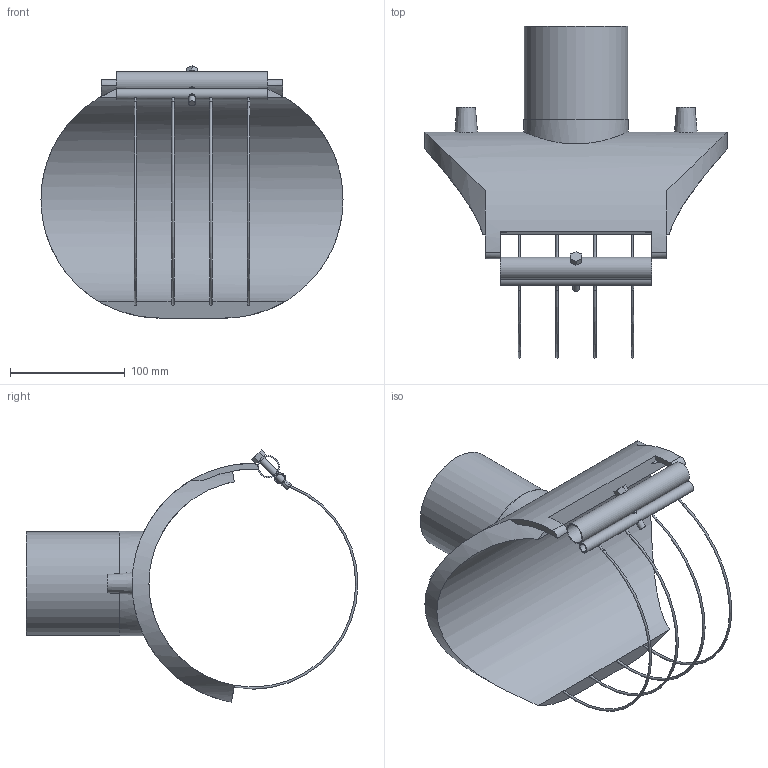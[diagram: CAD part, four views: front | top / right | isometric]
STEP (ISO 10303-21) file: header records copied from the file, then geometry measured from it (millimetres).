
FILE_DESCRIPTION(/* description */ ('Plasson Branch Saddle 180x90'),/* implementation_level */ '2;1');
FILE_NAME(/* name */ 'C:\Dropbox\KIMPROJECTS-Inventor 2019\99-16-3568-Processing\ElectroFusion Fittings\4958X4\4958X4180090T.stp',/* time_stamp */ '2025-05-07T12:15:18+03:00',/* author */ ('KIM'),/* organization */ (''),/* preprocessor_version */ 'ST-DEVELOPER v18.1',/* originating_system */ 'Autodesk Inventor 2021',/* authorisation */ '');
FILE_SCHEMA (('AUTOMOTIVE_DESIGN { 1 0 10303 214 3 1 1 }'));
Length unit declared in the file: millimetre
Products named in the file (1): 4958X4180090T
Bounding box: 263 x 288.99 x 219.5 mm (x, y, z)
Volume: 1101181.1 mm3; surface area: 219389.1 mm2
Topology: 1 solids, 1 shells, 63 faces, 178 edges, 115 vertices
Faces by surface type: cylinder 28, plane 25, torus 8, cone 2
Full cylindrical faces by diameter (mm): 6 x3, 7.6 x1, 8 x1, 16 x1, 17.2 x1, 73 x1, 90 x1, 91 x1
Entity records: 2945 total; most frequent: CARTESIAN_POINT 1250, ORIENTED_EDGE 360, DIRECTION 331, EDGE_CURVE 180, AXIS2_PLACEMENT_3D 135, VERTEX_POINT 115, EDGE_LOOP 81, CIRCLE 67
